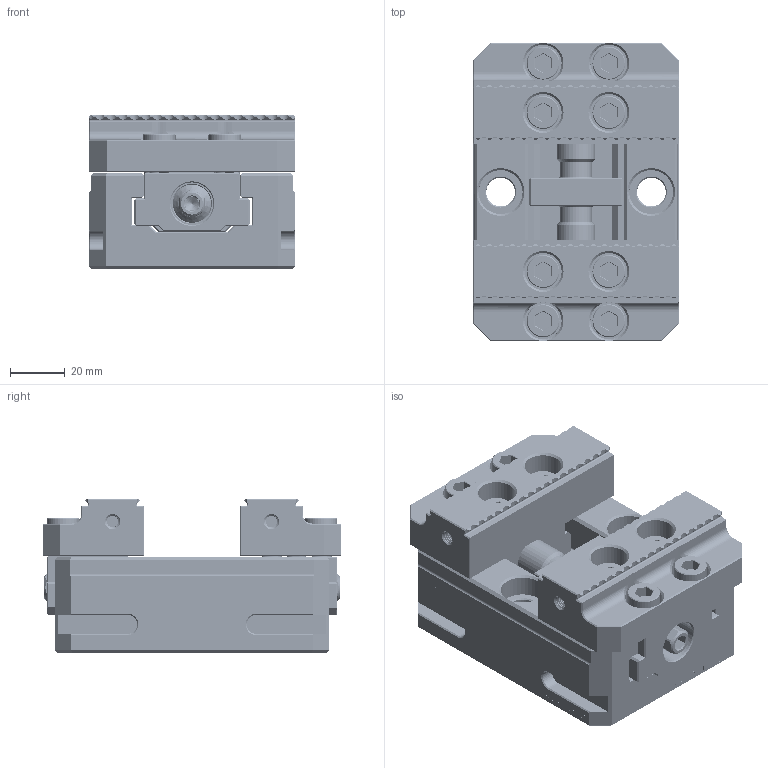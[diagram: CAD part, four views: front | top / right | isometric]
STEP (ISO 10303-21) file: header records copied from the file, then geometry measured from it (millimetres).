
FILE_DESCRIPTION(/* description */ (''),/* implementation_level */ '2;1');
FILE_NAME(/* name */ 'KSF75-100.stp',/* time_stamp */ '2025-05-15T11:11:14+08:00',/* author */ (''),/* organization */ (''),/* preprocessor_version */ 'ST-DEVELOPER v20',/* originating_system */ 'SIEMENS PLM Software NX2406.6001',/* authorisation */ '');
FILE_SCHEMA (('AUTOMOTIVE_DESIGN { 1 0 10303 214 3 1 1 1 }'));
Products named in the file (1): KSF75-100-2025_objects
Bounding box: 75 x 109 x 56.3 mm (x, y, z)
Volume: 302759.3 mm3; surface area: 95401.4 mm2
Topology: 17 solids, 17 shells, 1821 faces, 4749 edges, 3063 vertices
Faces by surface type: plane 1167, cylinder 277, cone 187, extrusion 144, bspline 40, torus 6
Full cylindrical faces by diameter (mm): 2.4 x2, 3 x1, 3.3 x2, 4.2 x40, 4.3 x10, 5 x1, 6 x2, 6.8 x13, 7.5 x2, 8.5 x8, 10 x2, 10.5 x2, 12 x14, 12.5 x2, 13.5 x8, 14 x4, 14.5 x2, 15.5 x3, 16 x3, 18 x1, 18.5 x1, 19 x2
Entity records: 115165 total; most frequent: CARTESIAN_POINT 67934, ORIENTED_EDGE 8500, DIRECTION 7103, EDGE_CURVE 4250, VERTEX_POINT 2866, AXIS2_PLACEMENT_3D 2406, VECTOR 2291, LINE 2147
